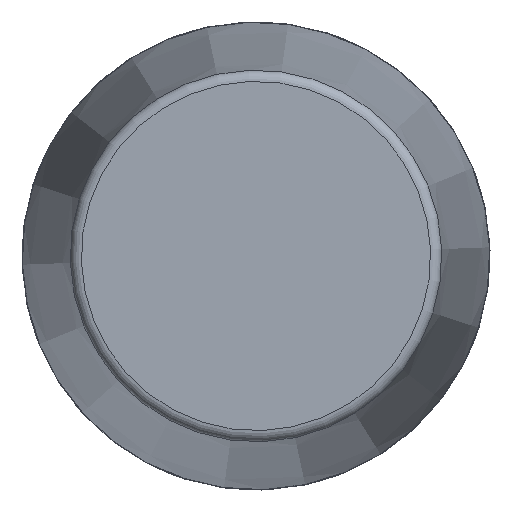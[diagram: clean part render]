
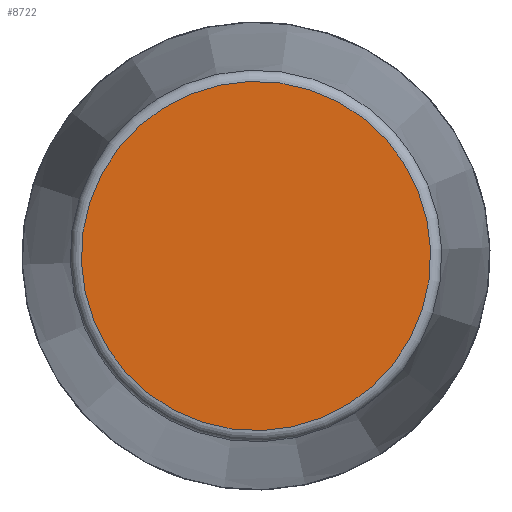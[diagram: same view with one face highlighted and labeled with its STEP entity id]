
A CAD part, front view. The second image highlights one B-rep face of the part: STEP entity #8722.
In plain terms, the highlighted planar face has unit normal (0, -1, 0) as drawn and (1, 0, 0) by its records, which use the part's own axes.
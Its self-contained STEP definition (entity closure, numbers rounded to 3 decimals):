
#2527=PLANE('',#9154);
#3107=FACE_OUTER_BOUND('',#3663,.T.);
#3663=EDGE_LOOP('',(#8214));
#3704=CIRCLE('',#9150,156.656);
#4536=VERTEX_POINT('',#15811);
#5765=EDGE_CURVE('',#4536,#4536,#3704,.T.);
#8214=ORIENTED_EDGE('',*,*,#5765,.F.);
#8722=ADVANCED_FACE('',(#3107),#2527,.T.);
#9150=AXIS2_PLACEMENT_3D('',#15812,#10736,#10737);
#9154=AXIS2_PLACEMENT_3D('',#15818,#10744,#10745);
#10736=DIRECTION('center_axis',(-1.,0.,0.));
#10737=DIRECTION('ref_axis',(0.,0.,
1.));
#10744=DIRECTION('center_axis',(1.,0.,0.));
#10745=DIRECTION('ref_axis',(0.,0.,-1.));
#15811=CARTESIAN_POINT('',(711.,0.,-156.656));
#15812=CARTESIAN_POINT('Origin',(711.,0.,0.));
#15818=CARTESIAN_POINT('Origin',(711.,0.,0.));
